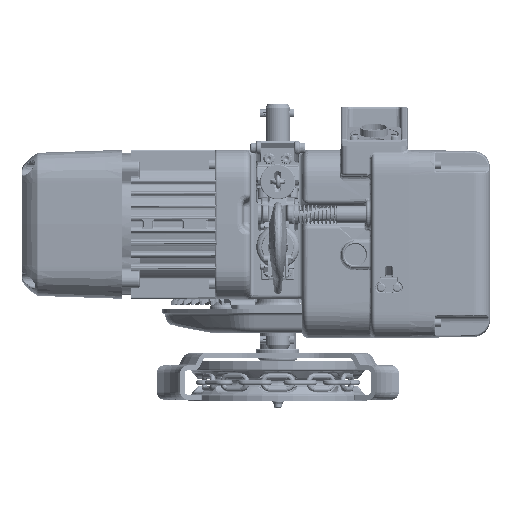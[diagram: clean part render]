
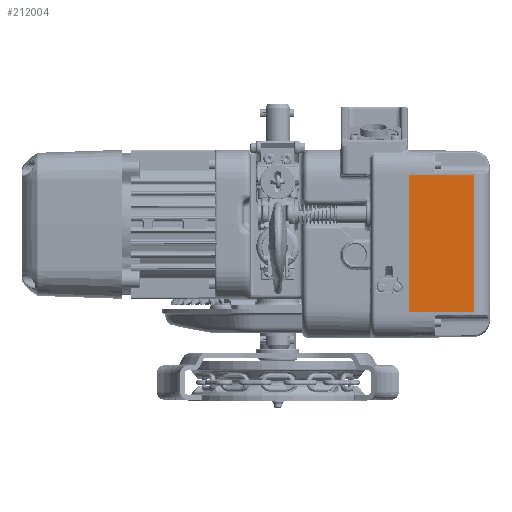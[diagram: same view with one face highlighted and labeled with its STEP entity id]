
A CAD part, front view. The second image highlights one B-rep face of the part: STEP entity #212004.
In plain terms, the highlighted planar face has unit normal (0.018, -1, 0) as drawn and (0, -1, 0.017) by its records, which use the part's own axes.
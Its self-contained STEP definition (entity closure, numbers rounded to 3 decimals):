
#3416 = VECTOR ( 'NONE', #25453, 1000. ) ;
#5804 = DIRECTION ( 'NONE',  ( 0., -0.017, -1. ) ) ;
#8037 = LINE ( 'NONE', #68930, #153416 ) ;
#12298 = VERTEX_POINT ( 'NONE', #140516 ) ;
#19894 = CARTESIAN_POINT ( 'NONE',  ( -69.847, -83.5, 0. ) ) ;
#24228 = PLANE ( 'NONE',  #122669 ) ;
#25453 = DIRECTION ( 'NONE',  ( 0., -0.017, -1. ) ) ;
#46106 = EDGE_CURVE ( 'NONE', #111642, #277388, #212335, .T. ) ;
#62340 = CARTESIAN_POINT ( 'NONE',  ( 69.847, -83.5, 0. ) ) ;
#68930 = CARTESIAN_POINT ( 'NONE',  ( 0., -82.343, 66.297 ) ) ;
#69447 = CARTESIAN_POINT ( 'NONE',  ( -69.847, -82.343, 66.297 ) ) ;
#69477 = FACE_OUTER_BOUND ( 'NONE', #120577, .T. ) ;
#74329 = LINE ( 'NONE', #227037, #156794 ) ;
#92230 = EDGE_CURVE ( 'NONE', #123798, #111642, #8037, .T. ) ;
#94348 = DIRECTION ( 'NONE',  ( -1., 0., 0. ) ) ;
#110583 = DIRECTION ( 'NONE',  ( 0., -1., 0.017 ) ) ;
#111642 = VERTEX_POINT ( 'NONE', #69447 ) ;
#112840 = CARTESIAN_POINT ( 'NONE',  ( 69.847, -82.343, 66.297 ) ) ;
#120577 = EDGE_LOOP ( 'NONE', ( #178700, #181891, #252251, #204395 ) ) ;
#122669 = AXIS2_PLACEMENT_3D ( 'NONE', #242075, #110583, #5804 ) ;
#123798 = VERTEX_POINT ( 'NONE', #112840 ) ;
#140516 = CARTESIAN_POINT ( 'NONE',  ( 69.847, -83.5, 0. ) ) ;
#144029 = CARTESIAN_POINT ( 'NONE',  ( -69.847, -83.5, 0. ) ) ;
#153416 = VECTOR ( 'NONE', #94348, 1000. ) ;
#156794 = VECTOR ( 'NONE', #245487, 1000. ) ;
#176777 = VECTOR ( 'NONE', #192391, 1000. ) ;
#178700 = ORIENTED_EDGE ( 'NONE', *, *, #217503, .F. ) ;
#181891 = ORIENTED_EDGE ( 'NONE', *, *, #92230, .T. ) ;
#190975 = LINE ( 'NONE', #62340, #3416 ) ;
#192391 = DIRECTION ( 'NONE',  ( 0., -0.017, -1. ) ) ;
#204395 = ORIENTED_EDGE ( 'NONE', *, *, #204429, .F. ) ;
#204429 = EDGE_CURVE ( 'NONE', #12298, #277388, #74329, .T. ) ;
#212004 = ADVANCED_FACE ( 'NONE', ( #69477 ), #24228, .T. ) ;
#212335 = LINE ( 'NONE', #19894, #176777 ) ;
#217503 = EDGE_CURVE ( 'NONE', #123798, #12298, #190975, .T. ) ;
#227037 = CARTESIAN_POINT ( 'NONE',  ( 0., -83.5, 0. ) ) ;
#242075 = CARTESIAN_POINT ( 'NONE',  ( 0., -83.5, 0. ) ) ;
#245487 = DIRECTION ( 'NONE',  ( -1., 0., 0. ) ) ;
#252251 = ORIENTED_EDGE ( 'NONE', *, *, #46106, .T. ) ;
#277388 = VERTEX_POINT ( 'NONE', #144029 ) ;
